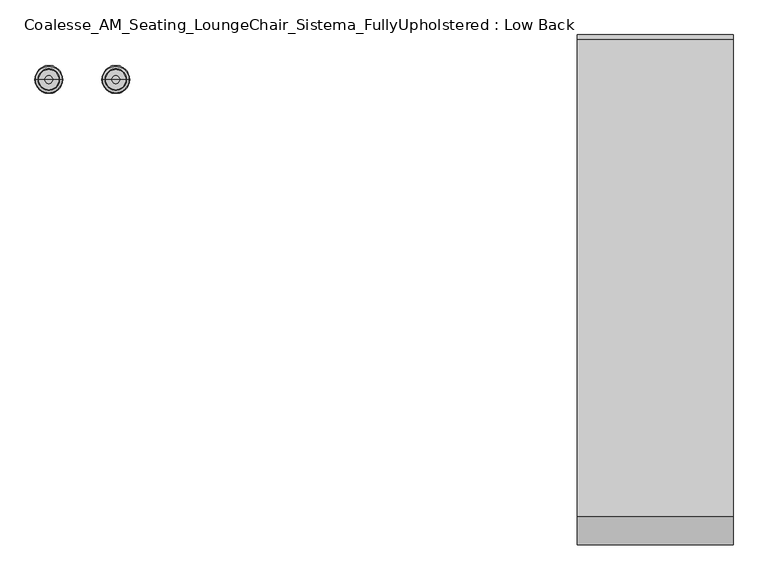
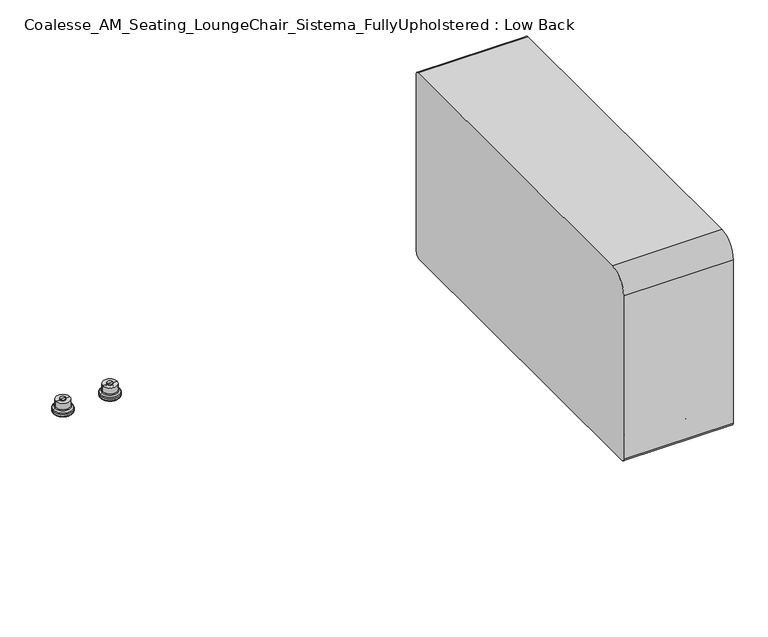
"""IFC4 building model written with IfcOpenShell, lengths in millimetres: furniture geometry, Coalesse_AM_Seating_LoungeChair_Sistema_FullyUpholstered : Low Back."""

from ifc_helpers import new_model, si_unit, point, frame, frame_2d, origin, place, context, project, spatial, polyline, circle_curve, ellipse_curve, trimmed, segment, composite_curve, outline, extrude, source, transform, mapped, element, save
from ifc_brep_helpers import plane_surface, cylinder_surface, revolved_surface, advanced_brep


def coalesse_am_seating_loungechair_sistema_fullyupholstered_low_4fc6f266(model_context):
    return source(origin(), model_context, "Body", "SolidModel", [
        advanced_brep(
        [(559.2171975, 377.2587221, 32.0111214), (559.2171975, 377.2587221, 16.5557542), (595.490807, 377.2587221, 16.5557542), (595.490807, 377.2587221, 32.0111214), (557.923517, 377.2587221, 14.0167632), (596.7844876, 377.2587221, 14.0167632), (553.5515307, 377.2587221, 10.8824382), (601.1564738, 377.2587221, 10.8824382), (552.3653144, 377.2587221, 8.4680454), (602.3426902, 377.2587221, 8.4680454), (552.3653144, 377.2587221, 3.1081764), (602.3426902, 377.2587221, 3.1081764), (555.9616889, 377.2587221, 0.0), (598.7463156, 377.2587221, 0.0), (577.3540023, 377.2587221, 0.0), (577.3540023, 377.2587221, 34.4679682), (570.2392233, 377.2587221, 34.4679682), (584.4687813, 377.2587221, 34.4679682), (570.2392233, 377.2587221, 32.0111214), (584.4687813, 377.2587221, 32.0111214)],
        [
            (0, 1),
            (1, 2, circle_curve(frame((577.3540023, 377.2587221, 16.5557542), z_axis=(0.0, 0.0, 1.0), x_axis=(1.0, 0.0, 0.0)), 18.1368048)),
            (2, 3),
            (3, 0, circle_curve(frame((577.3540023, 377.2587221, 32.0111214), z_axis=(0.0, 0.0, -1.0), x_axis=(1.0, 0.0, 0.0)), 18.1368048)),
            (2, 1, circle_curve(frame((577.3540023, 377.2587221, 16.5557542), z_axis=(0.0, 0.0, 1.0), x_axis=(1.0, 0.0, 0.0)), 18.1368048)),
            (0, 3, circle_curve(frame((577.3540023, 377.2587221, 32.0111214), z_axis=(0.0, 0.0, -1.0), x_axis=(1.0, 0.0, 0.0)), 18.1368048)),
            (1, 4),
            (4, 5, circle_curve(frame((577.3540023, 377.2587221, 14.0167632), z_axis=(0.0, 0.0, 1.0), x_axis=(1.0, 0.0, 0.0)), 19.4304853)),
            (5, 2),
            (5, 4, circle_curve(frame((577.3540023, 377.2587221, 14.0167632), z_axis=(0.0, 0.0, 1.0), x_axis=(1.0, 0.0, 0.0)), 19.4304853)),
            (4, 6, circle_curve(frame((599.9054873, 377.2587221, -49.1591113), z_axis=(0.0, -1.0, 0.0), x_axis=(1.0, 0.0, 0.0)), 75.8529957)),
            (6, 7, circle_curve(frame((577.3540023, 377.2587221, 10.8824382), z_axis=(0.0, 0.0, 1.0), x_axis=(1.0, 0.0, 0.0)), 23.8024715)),
            (7, 5, circle_curve(frame((554.8025172, 377.2587221, -49.1591113), z_axis=(0.0, -1.0, 0.0), x_axis=(-1.0, 0.0, 0.0)), 75.8529957)),
            (7, 6, circle_curve(frame((577.3540023, 377.2587221, 10.8824382), z_axis=(0.0, 0.0, 1.0), x_axis=(1.0, 0.0, 0.0)), 23.8024715)),
            (6, 8, circle_curve(frame((555.4155176, 377.2587221, 8.4680454), z_axis=(0.0, -1.0, 0.0), x_axis=(1.0, 0.0, 0.0)), 3.0502032)),
            (8, 9, circle_curve(frame((577.3540023, 377.2587221, 8.4680454), z_axis=(0.0, 0.0, 1.0), x_axis=(1.0, 0.0, 0.0)), 24.9886879)),
            (9, 7, circle_curve(frame((599.2924869, 377.2587221, 8.4680454), z_axis=(0.0, -1.0, 0.0), x_axis=(-1.0, 0.0, 0.0)), 3.0502032)),
            (9, 8, circle_curve(frame((577.3540023, 377.2587221, 8.4680454), z_axis=(0.0, 0.0, 1.0), x_axis=(1.0, 0.0, 0.0)), 24.9886879)),
            (8, 10),
            (10, 11, circle_curve(frame((577.3540023, 377.2587221, 3.1081764), z_axis=(0.0, 0.0, 1.0), x_axis=(1.0, 0.0, 0.0)), 24.9886879)),
            (11, 9),
            (11, 10, circle_curve(frame((577.3540023, 377.2587221, 3.1081764), z_axis=(0.0, 0.0, 1.0), x_axis=(1.0, 0.0, 0.0)), 24.9886879)),
            (10, 12, circle_curve(frame((555.9616889, 377.2587221, 3.634715), z_axis=(0.0, -1.0, 0.0), x_axis=(1.0, 0.0, 0.0)), 3.634715)),
            (12, 13, circle_curve(frame((577.3540023, 377.2587221, 0.0), z_axis=(0.0, 0.0, 1.0), x_axis=(1.0, 0.0, 0.0)), 21.3923133)),
            (13, 11, circle_curve(frame((598.7463156, 377.2587221, 3.634715), z_axis=(0.0, -1.0, 0.0), x_axis=(-1.0, 0.0, 0.0)), 3.634715)),
            (13, 12, circle_curve(frame((577.3540023, 377.2587221, 0.0), z_axis=(0.0, 0.0, 1.0), x_axis=(1.0, 0.0, 0.0)), 21.3923133)),
            (12, 14),
            (14, 13),
            (15, 16),
            (16, 17, circle_curve(frame((577.3540023, 377.2587221, 34.4679682), z_axis=(0.0, 0.0, 1.0), x_axis=(1.0, 0.0, 0.0)), 7.114779)),
            (17, 15),
            (17, 16, circle_curve(frame((577.3540023, 377.2587221, 34.4679682), z_axis=(0.0, 0.0, 1.0), x_axis=(1.0, 0.0, 0.0)), 7.114779)),
            (16, 18),
            (18, 19, circle_curve(frame((577.3540023, 377.2587221, 32.0111214), z_axis=(0.0, 0.0, 1.0), x_axis=(1.0, 0.0, 0.0)), 7.114779)),
            (19, 17),
            (19, 18, circle_curve(frame((577.3540023, 377.2587221, 32.0111214), z_axis=(0.0, 0.0, 1.0), x_axis=(1.0, 0.0, 0.0)), 7.114779)),
            (18, 0),
            (3, 19),
        ],
        [
            cylinder_surface(frame((577.3540023, 377.2587221, 22.0491407), z_axis=(0.0, 0.0, 1.0), x_axis=(1.0, 0.0, 0.0)), 18.1368048),
            revolved_surface(polyline([(596.7844876, 377.2587221, 14.0167632), (595.490807, 377.2587221, 16.5557542)]), (577.3540023, 377.2587221, 22.0491407), (0.0, 0.0, 1.0)),
            revolved_surface(trimmed(ellipse_curve(frame((554.8025172, 377.2587221, -49.1591113), z_axis=(0.0, -1.0, 0.0), x_axis=(-1.0, 0.0, 0.0)), 75.8529957, 75.8529957), [point((601.1564738, 377.2587221, 10.8824382))], [point((596.7844876, 377.2587221, 14.0167632))], True, "CARTESIAN"), (577.3540023, 377.2587221, 22.0491407), (0.0, 0.0, 1.0)),
            revolved_surface(trimmed(ellipse_curve(frame((599.2924869, 377.2587221, 8.4680454), z_axis=(0.0, -1.0, 0.0), x_axis=(-1.0, 0.0, 0.0)), 3.0502032, 3.0502032), [point((602.3426902, 377.2587221, 8.4680454))], [point((601.1564738, 377.2587221, 10.8824382))], True, "CARTESIAN"), (577.3540023, 377.2587221, 22.0491407), (0.0, 0.0, 1.0)),
            cylinder_surface(frame((577.3540023, 377.2587221, 22.0491407), z_axis=(0.0, 0.0, 1.0), x_axis=(1.0, 0.0, 0.0)), 24.9886879),
            revolved_surface(trimmed(ellipse_curve(frame((598.7463156, 377.2587221, 3.634715), z_axis=(0.0, -1.0, 0.0), x_axis=(-1.0, 0.0, 0.0)), 3.634715, 3.634715), [point((598.7463156, 377.2587221, 0.0))], [point((602.3426902, 377.2587221, 3.1081764))], True, "CARTESIAN"), (577.3540023, 377.2587221, 22.0491407), (0.0, 0.0, 1.0)),
            plane_surface(frame((577.3540023, 377.2587221, 0.0), z_axis=(0.0, 0.0, -1.0), x_axis=(1.0, 0.0, 0.0))),
            plane_surface(frame((577.3540023, 377.2587221, 34.4679682), z_axis=(0.0, 0.0, 1.0), x_axis=(1.0, 0.0, 0.0))),
            cylinder_surface(frame((577.3540023, 377.2587221, 22.0491407), z_axis=(0.0, 0.0, 1.0), x_axis=(1.0, 0.0, 0.0)), 7.114779),
            plane_surface(frame((577.3540023, 377.2587221, 32.0111214), z_axis=(0.0, 0.0, 1.0), x_axis=(1.0, 0.0, 0.0))),
        ],
        [
            (0, [[1, 2, 3, 4]]),
            (0, [[-3, 5, -1, 6]]),
            (1, [[7, 8, 9, -2]]),
            (1, [[-9, 10, -7, -5]]),
            (2, [[11, 12, 13, -8]]),
            (2, [[-13, 14, -11, -10]]),
            (3, [[15, 16, 17, -12]]),
            (3, [[-17, 18, -15, -14]]),
            (4, [[19, 20, 21, -16]]),
            (4, [[-21, 22, -19, -18]]),
            (5, [[23, 24, 25, -20]]),
            (5, [[-25, 26, -23, -22]]),
            (6, [[27, 28, -24]]),
            (6, [[-28, -27, -26]]),
            (7, [[29, 30, 31]]),
            (7, [[-31, 32, -29]]),
            (8, [[33, 34, 35, -30]]),
            (8, [[-35, 36, -33, -32]]),
            (9, [[37, -4, 38, -34]]),
            (9, [[-38, -6, -37, -36]]),
        ],
    ),
        advanced_brep(
        [(438.5671975, 377.2587221, 32.0111214), (438.5671975, 377.2587221, 16.5557542), (474.840807, 377.2587221, 16.5557542), (474.840807, 377.2587221, 32.0111214), (437.273517, 377.2587221, 14.0167632), (476.1344876, 377.2587221, 14.0167632), (432.9015307, 377.2587221, 10.8824382), (480.5064738, 377.2587221, 10.8824382), (431.7153144, 377.2587221, 8.4680454), (481.6926902, 377.2587221, 8.4680454), (431.7153144, 377.2587221, 3.1081764), (481.6926902, 377.2587221, 3.1081764), (435.3116889, 377.2587221, 0.0), (478.0963156, 377.2587221, 0.0), (456.7040023, 377.2587221, 0.0), (456.7040023, 377.2587221, 34.4679682), (449.5892233, 377.2587221, 34.4679682), (463.8187813, 377.2587221, 34.4679682), (449.5892233, 377.2587221, 32.0111214), (463.8187813, 377.2587221, 32.0111214)],
        [
            (0, 1),
            (1, 2, circle_curve(frame((456.7040023, 377.2587221, 16.5557542), z_axis=(0.0, 0.0, 1.0), x_axis=(1.0, 0.0, 0.0)), 18.1368048)),
            (2, 3),
            (3, 0, circle_curve(frame((456.7040023, 377.2587221, 32.0111214), z_axis=(0.0, 0.0, -1.0), x_axis=(1.0, 0.0, 0.0)), 18.1368048)),
            (2, 1, circle_curve(frame((456.7040023, 377.2587221, 16.5557542), z_axis=(0.0, 0.0, 1.0), x_axis=(1.0, 0.0, 0.0)), 18.1368048)),
            (0, 3, circle_curve(frame((456.7040023, 377.2587221, 32.0111214), z_axis=(0.0, 0.0, -1.0), x_axis=(1.0, 0.0, 0.0)), 18.1368048)),
            (1, 4),
            (4, 5, circle_curve(frame((456.7040023, 377.2587221, 14.0167632), z_axis=(0.0, 0.0, 1.0), x_axis=(1.0, 0.0, 0.0)), 19.4304853)),
            (5, 2),
            (5, 4, circle_curve(frame((456.7040023, 377.2587221, 14.0167632), z_axis=(0.0, 0.0, 1.0), x_axis=(1.0, 0.0, 0.0)), 19.4304853)),
            (4, 6, circle_curve(frame((479.2554873, 377.2587221, -49.1591113), z_axis=(0.0, -1.0, 0.0), x_axis=(1.0, 0.0, 0.0)), 75.8529957)),
            (6, 7, circle_curve(frame((456.7040023, 377.2587221, 10.8824382), z_axis=(0.0, 0.0, 1.0), x_axis=(1.0, 0.0, 0.0)), 23.8024715)),
            (7, 5, circle_curve(frame((434.1525172, 377.2587221, -49.1591113), z_axis=(0.0, -1.0, 0.0), x_axis=(-1.0, 0.0, 0.0)), 75.8529957)),
            (7, 6, circle_curve(frame((456.7040023, 377.2587221, 10.8824382), z_axis=(0.0, 0.0, 1.0), x_axis=(1.0, 0.0, 0.0)), 23.8024715)),
            (6, 8, circle_curve(frame((434.7655176, 377.2587221, 8.4680454), z_axis=(0.0, -1.0, 0.0), x_axis=(1.0, 0.0, 0.0)), 3.0502032)),
            (8, 9, circle_curve(frame((456.7040023, 377.2587221, 8.4680454), z_axis=(0.0, 0.0, 1.0), x_axis=(1.0, 0.0, 0.0)), 24.9886879)),
            (9, 7, circle_curve(frame((478.6424869, 377.2587221, 8.4680454), z_axis=(0.0, -1.0, 0.0), x_axis=(-1.0, 0.0, 0.0)), 3.0502032)),
            (9, 8, circle_curve(frame((456.7040023, 377.2587221, 8.4680454), z_axis=(0.0, 0.0, 1.0), x_axis=(1.0, 0.0, 0.0)), 24.9886879)),
            (8, 10),
            (10, 11, circle_curve(frame((456.7040023, 377.2587221, 3.1081764), z_axis=(0.0, 0.0, 1.0), x_axis=(1.0, 0.0, 0.0)), 24.9886879)),
            (11, 9),
            (11, 10, circle_curve(frame((456.7040023, 377.2587221, 3.1081764), z_axis=(0.0, 0.0, 1.0), x_axis=(1.0, 0.0, 0.0)), 24.9886879)),
            (10, 12, circle_curve(frame((435.3116889, 377.2587221, 3.634715), z_axis=(0.0, -1.0, 0.0), x_axis=(1.0, 0.0, 0.0)), 3.634715)),
            (12, 13, circle_curve(frame((456.7040023, 377.2587221, 0.0), z_axis=(0.0, 0.0, 1.0), x_axis=(1.0, 0.0, 0.0)), 21.3923133)),
            (13, 11, circle_curve(frame((478.0963156, 377.2587221, 3.634715), z_axis=(0.0, -1.0, 0.0), x_axis=(-1.0, 0.0, 0.0)), 3.634715)),
            (13, 12, circle_curve(frame((456.7040023, 377.2587221, 0.0), z_axis=(0.0, 0.0, 1.0), x_axis=(1.0, 0.0, 0.0)), 21.3923133)),
            (12, 14),
            (14, 13),
            (15, 16),
            (16, 17, circle_curve(frame((456.7040023, 377.2587221, 34.4679682), z_axis=(0.0, 0.0, 1.0), x_axis=(1.0, 0.0, 0.0)), 7.114779)),
            (17, 15),
            (17, 16, circle_curve(frame((456.7040023, 377.2587221, 34.4679682), z_axis=(0.0, 0.0, 1.0), x_axis=(1.0, 0.0, 0.0)), 7.114779)),
            (16, 18),
            (18, 19, circle_curve(frame((456.7040023, 377.2587221, 32.0111214), z_axis=(0.0, 0.0, 1.0), x_axis=(1.0, 0.0, 0.0)), 7.114779)),
            (19, 17),
            (19, 18, circle_curve(frame((456.7040023, 377.2587221, 32.0111214), z_axis=(0.0, 0.0, 1.0), x_axis=(1.0, 0.0, 0.0)), 7.114779)),
            (18, 0),
            (3, 19),
        ],
        [
            cylinder_surface(frame((456.7040023, 377.2587221, 22.0491407), z_axis=(0.0, 0.0, 1.0), x_axis=(1.0, 0.0, 0.0)), 18.1368048),
            revolved_surface(polyline([(476.1344876, 377.2587221, 14.0167632), (474.840807, 377.2587221, 16.5557542)]), (456.7040023, 377.2587221, 22.0491407), (0.0, 0.0, 1.0)),
            revolved_surface(trimmed(ellipse_curve(frame((434.1525172, 377.2587221, -49.1591113), z_axis=(0.0, -1.0, 0.0), x_axis=(-1.0, 0.0, 0.0)), 75.8529957, 75.8529957), [point((480.5064738, 377.2587221, 10.8824382))], [point((476.1344876, 377.2587221, 14.0167632))], True, "CARTESIAN"), (456.7040023, 377.2587221, 22.0491407), (0.0, 0.0, 1.0)),
            revolved_surface(trimmed(ellipse_curve(frame((478.6424869, 377.2587221, 8.4680454), z_axis=(0.0, -1.0, 0.0), x_axis=(-1.0, 0.0, 0.0)), 3.0502032, 3.0502032), [point((481.6926902, 377.2587221, 8.4680454))], [point((480.5064738, 377.2587221, 10.8824382))], True, "CARTESIAN"), (456.7040023, 377.2587221, 22.0491407), (0.0, 0.0, 1.0)),
            cylinder_surface(frame((456.7040023, 377.2587221, 22.0491407), z_axis=(0.0, 0.0, 1.0), x_axis=(1.0, 0.0, 0.0)), 24.9886879),
            revolved_surface(trimmed(ellipse_curve(frame((478.0963156, 377.2587221, 3.634715), z_axis=(0.0, -1.0, 0.0), x_axis=(-1.0, 0.0, 0.0)), 3.634715, 3.634715), [point((478.0963156, 377.2587221, 0.0))], [point((481.6926902, 377.2587221, 3.1081764))], True, "CARTESIAN"), (456.7040023, 377.2587221, 22.0491407), (0.0, 0.0, 1.0)),
            plane_surface(frame((456.7040023, 377.2587221, 0.0), z_axis=(0.0, 0.0, -1.0), x_axis=(1.0, 0.0, 0.0))),
            plane_surface(frame((456.7040023, 377.2587221, 34.4679682), z_axis=(0.0, 0.0, 1.0), x_axis=(1.0, 0.0, 0.0))),
            cylinder_surface(frame((456.7040023, 377.2587221, 22.0491407), z_axis=(0.0, 0.0, 1.0), x_axis=(1.0, 0.0, 0.0)), 7.114779),
            plane_surface(frame((456.7040023, 377.2587221, 32.0111214), z_axis=(0.0, 0.0, 1.0), x_axis=(1.0, 0.0, 0.0))),
        ],
        [
            (0, [[1, 2, 3, 4]]),
            (0, [[-3, 5, -1, 6]]),
            (1, [[7, 8, 9, -2]]),
            (1, [[-9, 10, -7, -5]]),
            (2, [[11, 12, 13, -8]]),
            (2, [[-13, 14, -11, -10]]),
            (3, [[15, 16, 17, -12]]),
            (3, [[-17, 18, -15, -14]]),
            (4, [[19, 20, 21, -16]]),
            (4, [[-21, 22, -19, -18]]),
            (5, [[23, 24, 25, -20]]),
            (5, [[-25, 26, -23, -22]]),
            (6, [[27, 28, -24]]),
            (6, [[-28, -27, -26]]),
            (7, [[29, 30, 31]]),
            (7, [[-31, 32, -29]]),
            (8, [[33, 34, 35, -30]]),
            (8, [[-35, 36, -33, -32]]),
            (9, [[37, -4, 38, -34]]),
            (9, [[-38, -6, -37, -36]]),
        ],
    ),
        advanced_brep(
        [(559.2171975, -359.8402281, 16.5557542), (559.2171975, -359.8402281, 32.0111214), (595.490807, -359.8402281, 32.0111214), (595.490807, -359.8402281, 16.5557542), (557.923517, -359.8402281, 14.0167632), (596.7844876, -359.8402281, 14.0167632), (553.5515307, -359.8402281, 10.8824382), (601.1564738, -359.8402281, 10.8824382), (552.3653144, -359.8402281, 8.4680454), (602.3426902, -359.8402281, 8.4680454), (552.3653144, -359.8402281, 3.1081764), (602.3426902, -359.8402281, 3.1081764), (555.9616889, -359.8402281, 0.0), (598.7463156, -359.8402281, 0.0), (577.3540023, -359.8402281, 0.0), (570.2392233, -359.8402281, 34.4679682), (577.3540023, -359.8402281, 34.4679682), (584.4687813, -359.8402281, 34.4679682), (570.2392233, -359.8402281, 32.0111214), (584.4687813, -359.8402281, 32.0111214)],
        [
            (0, 1),
            (1, 2, circle_curve(frame((577.3540023, -359.8402281, 32.0111214), z_axis=(0.0, 0.0, -1.0), x_axis=(1.0, 0.0, 0.0)), 18.1368048)),
            (2, 3),
            (3, 0, circle_curve(frame((577.3540023, -359.8402281, 16.5557542), z_axis=(0.0, 0.0, 1.0), x_axis=(1.0, 0.0, 0.0)), 18.1368048)),
            (2, 1, circle_curve(frame((577.3540023, -359.8402281, 32.0111214), z_axis=(0.0, 0.0, -1.0), x_axis=(1.0, 0.0, 0.0)), 18.1368048)),
            (0, 3, circle_curve(frame((577.3540023, -359.8402281, 16.5557542), z_axis=(0.0, 0.0, 1.0), x_axis=(1.0, 0.0, 0.0)), 18.1368048)),
            (4, 0),
            (3, 5),
            (5, 4, circle_curve(frame((577.3540023, -359.8402281, 14.0167632), z_axis=(0.0, 0.0, 1.0), x_axis=(1.0, 0.0, 0.0)), 19.4304853)),
            (4, 5, circle_curve(frame((577.3540023, -359.8402281, 14.0167632), z_axis=(0.0, 0.0, 1.0), x_axis=(1.0, 0.0, 0.0)), 19.4304853)),
            (6, 4, circle_curve(frame((599.9054873, -359.8402281, -49.1591113), z_axis=(0.0, 1.0, 0.0), x_axis=(1.0, 0.0, 0.0)), 75.8529957)),
            (5, 7, circle_curve(frame((554.8025172, -359.8402281, -49.1591113), z_axis=(0.0, 1.0, 0.0), x_axis=(-1.0, 0.0, 0.0)), 75.8529957)),
            (7, 6, circle_curve(frame((577.3540023, -359.8402281, 10.8824382), z_axis=(0.0, 0.0, 1.0), x_axis=(1.0, 0.0, 0.0)), 23.8024715)),
            (6, 7, circle_curve(frame((577.3540023, -359.8402281, 10.8824382), z_axis=(0.0, 0.0, 1.0), x_axis=(1.0, 0.0, 0.0)), 23.8024715)),
            (8, 6, circle_curve(frame((555.4155176, -359.8402281, 8.4680454), z_axis=(0.0, 1.0, 0.0), x_axis=(1.0, 0.0, 0.0)), 3.0502032)),
            (7, 9, circle_curve(frame((599.2924869, -359.8402281, 8.4680454), z_axis=(0.0, 1.0, 0.0), x_axis=(-1.0, 0.0, 0.0)), 3.0502032)),
            (9, 8, circle_curve(frame((577.3540023, -359.8402281, 8.4680454), z_axis=(0.0, 0.0, 1.0), x_axis=(1.0, 0.0, 0.0)), 24.9886879)),
            (8, 9, circle_curve(frame((577.3540023, -359.8402281, 8.4680454), z_axis=(0.0, 0.0, 1.0), x_axis=(1.0, 0.0, 0.0)), 24.9886879)),
            (10, 8),
            (9, 11),
            (11, 10, circle_curve(frame((577.3540023, -359.8402281, 3.1081764), z_axis=(0.0, 0.0, 1.0), x_axis=(1.0, 0.0, 0.0)), 24.9886879)),
            (10, 11, circle_curve(frame((577.3540023, -359.8402281, 3.1081764), z_axis=(0.0, 0.0, 1.0), x_axis=(1.0, 0.0, 0.0)), 24.9886879)),
            (12, 10, circle_curve(frame((555.9616889, -359.8402281, 3.634715), z_axis=(0.0, 1.0, 0.0), x_axis=(1.0, 0.0, 0.0)), 3.634715)),
            (11, 13, circle_curve(frame((598.7463156, -359.8402281, 3.634715), z_axis=(0.0, 1.0, 0.0), x_axis=(-1.0, 0.0, 0.0)), 3.634715)),
            (13, 12, circle_curve(frame((577.3540023, -359.8402281, 0.0), z_axis=(0.0, 0.0, 1.0), x_axis=(1.0, 0.0, 0.0)), 21.3923133)),
            (12, 13, circle_curve(frame((577.3540023, -359.8402281, 0.0), z_axis=(0.0, 0.0, 1.0), x_axis=(1.0, 0.0, 0.0)), 21.3923133)),
            (14, 12),
            (13, 14),
            (15, 16),
            (16, 17),
            (17, 15, circle_curve(frame((577.3540023, -359.8402281, 34.4679682), z_axis=(0.0, 0.0, 1.0), x_axis=(1.0, 0.0, 0.0)), 7.114779)),
            (15, 17, circle_curve(frame((577.3540023, -359.8402281, 34.4679682), z_axis=(0.0, 0.0, 1.0), x_axis=(1.0, 0.0, 0.0)), 7.114779)),
            (18, 15),
            (17, 19),
            (19, 18, circle_curve(frame((577.3540023, -359.8402281, 32.0111214), z_axis=(0.0, 0.0, 1.0), x_axis=(1.0, 0.0, 0.0)), 7.114779)),
            (18, 19, circle_curve(frame((577.3540023, -359.8402281, 32.0111214), z_axis=(0.0, 0.0, 1.0), x_axis=(1.0, 0.0, 0.0)), 7.114779)),
            (1, 18),
            (19, 2),
        ],
        [
            cylinder_surface(frame((577.3540023, -359.8402281, 22.0491407), z_axis=(0.0, 0.0, -1.0), x_axis=(1.0, 0.0, 0.0)), 18.1368048),
            revolved_surface(polyline([(595.490807, -359.8402281, 16.5557542), (596.7844876, -359.8402281, 14.0167632)]), (577.3540023, -359.8402281, 22.0491407), (0.0, 0.0, -1.0)),
            revolved_surface(trimmed(ellipse_curve(frame((554.8025172, -359.8402281, -49.1591113), z_axis=(0.0, 1.0, 0.0), x_axis=(-1.0, 0.0, 0.0)), 75.8529957, 75.8529957), [point((596.7844876, -359.8402281, 14.0167632))], [point((601.1564738, -359.8402281, 10.8824382))], True, "CARTESIAN"), (577.3540023, -359.8402281, 22.0491407), (0.0, 0.0, -1.0)),
            revolved_surface(trimmed(ellipse_curve(frame((599.2924869, -359.8402281, 8.4680454), z_axis=(0.0, 1.0, 0.0), x_axis=(-1.0, 0.0, 0.0)), 3.0502032, 3.0502032), [point((601.1564738, -359.8402281, 10.8824382))], [point((602.3426902, -359.8402281, 8.4680454))], True, "CARTESIAN"), (577.3540023, -359.8402281, 22.0491407), (0.0, 0.0, -1.0)),
            cylinder_surface(frame((577.3540023, -359.8402281, 22.0491407), z_axis=(0.0, 0.0, -1.0), x_axis=(1.0, 0.0, 0.0)), 24.9886879),
            revolved_surface(trimmed(ellipse_curve(frame((598.7463156, -359.8402281, 3.634715), z_axis=(0.0, 1.0, 0.0), x_axis=(-1.0, 0.0, 0.0)), 3.634715, 3.634715), [point((602.3426902, -359.8402281, 3.1081764))], [point((598.7463156, -359.8402281, 0.0))], True, "CARTESIAN"), (577.3540023, -359.8402281, 22.0491407), (0.0, 0.0, -1.0)),
            plane_surface(frame((577.3540023, -359.8402281, 0.0), z_axis=(0.0, 0.0, -1.0), x_axis=(1.0, 0.0, 0.0))),
            plane_surface(frame((577.3540023, -359.8402281, 34.4679682), z_axis=(0.0, 0.0, 1.0), x_axis=(1.0, 0.0, 0.0))),
            cylinder_surface(frame((577.3540023, -359.8402281, 22.0491407), z_axis=(0.0, 0.0, -1.0), x_axis=(1.0, 0.0, 0.0)), 7.114779),
            plane_surface(frame((577.3540023, -359.8402281, 32.0111214), z_axis=(0.0, 0.0, 1.0), x_axis=(1.0, 0.0, 0.0))),
        ],
        [
            (0, [[1, 2, 3, 4]]),
            (0, [[-3, 5, -1, 6]]),
            (1, [[7, -4, 8, 9]]),
            (1, [[-8, -6, -7, 10]]),
            (2, [[11, -9, 12, 13]]),
            (2, [[-12, -10, -11, 14]]),
            (3, [[15, -13, 16, 17]]),
            (3, [[-16, -14, -15, 18]]),
            (4, [[19, -17, 20, 21]]),
            (4, [[-20, -18, -19, 22]]),
            (5, [[23, -21, 24, 25]]),
            (5, [[-24, -22, -23, 26]]),
            (6, [[27, -25, 28]]),
            (6, [[-28, -26, -27]]),
            (7, [[29, 30, 31]]),
            (7, [[-30, -29, 32]]),
            (8, [[33, -31, 34, 35]]),
            (8, [[-34, -32, -33, 36]]),
            (9, [[37, -35, 38, -2]]),
            (9, [[-38, -36, -37, -5]]),
        ],
    ),
        advanced_brep(
        [(438.5671975, -359.8402281, 16.5557542), (438.5671975, -359.8402281, 32.0111214), (474.840807, -359.8402281, 32.0111214), (474.840807, -359.8402281, 16.5557542), (437.273517, -359.8402281, 14.0167632), (476.1344876, -359.8402281, 14.0167632), (432.9015307, -359.8402281, 10.8824382), (480.5064738, -359.8402281, 10.8824382), (431.7153144, -359.8402281, 8.4680454), (481.6926902, -359.8402281, 8.4680454), (431.7153144, -359.8402281, 3.1081764), (481.6926902, -359.8402281, 3.1081764), (435.3116889, -359.8402281, 0.0), (478.0963156, -359.8402281, 0.0), (456.7040023, -359.8402281, 0.0), (449.5892233, -359.8402281, 34.4679682), (456.7040023, -359.8402281, 34.4679682), (463.8187813, -359.8402281, 34.4679682), (449.5892233, -359.8402281, 32.0111214), (463.8187813, -359.8402281, 32.0111214)],
        [
            (0, 1),
            (1, 2, circle_curve(frame((456.7040023, -359.8402281, 32.0111214), z_axis=(0.0, 0.0, -1.0), x_axis=(1.0, 0.0, 0.0)), 18.1368048)),
            (2, 3),
            (3, 0, circle_curve(frame((456.7040023, -359.8402281, 16.5557542), z_axis=(0.0, 0.0, 1.0), x_axis=(1.0, 0.0, 0.0)), 18.1368048)),
            (2, 1, circle_curve(frame((456.7040023, -359.8402281, 32.0111214), z_axis=(0.0, 0.0, -1.0), x_axis=(1.0, 0.0, 0.0)), 18.1368048)),
            (0, 3, circle_curve(frame((456.7040023, -359.8402281, 16.5557542), z_axis=(0.0, 0.0, 1.0), x_axis=(1.0, 0.0, 0.0)), 18.1368048)),
            (4, 0),
            (3, 5),
            (5, 4, circle_curve(frame((456.7040023, -359.8402281, 14.0167632), z_axis=(0.0, 0.0, 1.0), x_axis=(1.0, 0.0, 0.0)), 19.4304853)),
            (4, 5, circle_curve(frame((456.7040023, -359.8402281, 14.0167632), z_axis=(0.0, 0.0, 1.0), x_axis=(1.0, 0.0, 0.0)), 19.4304853)),
            (6, 4, circle_curve(frame((479.2554873, -359.8402281, -49.1591113), z_axis=(0.0, 1.0, 0.0), x_axis=(1.0, 0.0, 0.0)), 75.8529957)),
            (5, 7, circle_curve(frame((434.1525172, -359.8402281, -49.1591113), z_axis=(0.0, 1.0, 0.0), x_axis=(-1.0, 0.0, 0.0)), 75.8529957)),
            (7, 6, circle_curve(frame((456.7040023, -359.8402281, 10.8824382), z_axis=(0.0, 0.0, 1.0), x_axis=(1.0, 0.0, 0.0)), 23.8024715)),
            (6, 7, circle_curve(frame((456.7040023, -359.8402281, 10.8824382), z_axis=(0.0, 0.0, 1.0), x_axis=(1.0, 0.0, 0.0)), 23.8024715)),
            (8, 6, circle_curve(frame((434.7655176, -359.8402281, 8.4680454), z_axis=(0.0, 1.0, 0.0), x_axis=(1.0, 0.0, 0.0)), 3.0502032)),
            (7, 9, circle_curve(frame((478.6424869, -359.8402281, 8.4680454), z_axis=(0.0, 1.0, 0.0), x_axis=(-1.0, 0.0, 0.0)), 3.0502032)),
            (9, 8, circle_curve(frame((456.7040023, -359.8402281, 8.4680454), z_axis=(0.0, 0.0, 1.0), x_axis=(1.0, 0.0, 0.0)), 24.9886879)),
            (8, 9, circle_curve(frame((456.7040023, -359.8402281, 8.4680454), z_axis=(0.0, 0.0, 1.0), x_axis=(1.0, 0.0, 0.0)), 24.9886879)),
            (10, 8),
            (9, 11),
            (11, 10, circle_curve(frame((456.7040023, -359.8402281, 3.1081764), z_axis=(0.0, 0.0, 1.0), x_axis=(1.0, 0.0, 0.0)), 24.9886879)),
            (10, 11, circle_curve(frame((456.7040023, -359.8402281, 3.1081764), z_axis=(0.0, 0.0, 1.0), x_axis=(1.0, 0.0, 0.0)), 24.9886879)),
            (12, 10, circle_curve(frame((435.3116889, -359.8402281, 3.634715), z_axis=(0.0, 1.0, 0.0), x_axis=(1.0, 0.0, 0.0)), 3.634715)),
            (11, 13, circle_curve(frame((478.0963156, -359.8402281, 3.634715), z_axis=(0.0, 1.0, 0.0), x_axis=(-1.0, 0.0, 0.0)), 3.634715)),
            (13, 12, circle_curve(frame((456.7040023, -359.8402281, 0.0), z_axis=(0.0, 0.0, 1.0), x_axis=(1.0, 0.0, 0.0)), 21.3923133)),
            (12, 13, circle_curve(frame((456.7040023, -359.8402281, 0.0), z_axis=(0.0, 0.0, 1.0), x_axis=(1.0, 0.0, 0.0)), 21.3923133)),
            (14, 12),
            (13, 14),
            (15, 16),
            (16, 17),
            (17, 15, circle_curve(frame((456.7040023, -359.8402281, 34.4679682), z_axis=(0.0, 0.0, 1.0), x_axis=(1.0, 0.0, 0.0)), 7.114779)),
            (15, 17, circle_curve(frame((456.7040023, -359.8402281, 34.4679682), z_axis=(0.0, 0.0, 1.0), x_axis=(1.0, 0.0, 0.0)), 7.114779)),
            (18, 15),
            (17, 19),
            (19, 18, circle_curve(frame((456.7040023, -359.8402281, 32.0111214), z_axis=(0.0, 0.0, 1.0), x_axis=(1.0, 0.0, 0.0)), 7.114779)),
            (18, 19, circle_curve(frame((456.7040023, -359.8402281, 32.0111214), z_axis=(0.0, 0.0, 1.0), x_axis=(1.0, 0.0, 0.0)), 7.114779)),
            (1, 18),
            (19, 2),
        ],
        [
            cylinder_surface(frame((456.7040023, -359.8402281, 22.0491407), z_axis=(0.0, 0.0, -1.0), x_axis=(1.0, 0.0, 0.0)), 18.1368048),
            revolved_surface(polyline([(474.840807, -359.8402281, 16.5557542), (476.1344876, -359.8402281, 14.0167632)]), (456.7040023, -359.8402281, 22.0491407), (0.0, 0.0, -1.0)),
            revolved_surface(trimmed(ellipse_curve(frame((434.1525172, -359.8402281, -49.1591113), z_axis=(0.0, 1.0, 0.0), x_axis=(-1.0, 0.0, 0.0)), 75.8529957, 75.8529957), [point((476.1344876, -359.8402281, 14.0167632))], [point((480.5064738, -359.8402281, 10.8824382))], True, "CARTESIAN"), (456.7040023, -359.8402281, 22.0491407), (0.0, 0.0, -1.0)),
            revolved_surface(trimmed(ellipse_curve(frame((478.6424869, -359.8402281, 8.4680454), z_axis=(0.0, 1.0, 0.0), x_axis=(-1.0, 0.0, 0.0)), 3.0502032, 3.0502032), [point((480.5064738, -359.8402281, 10.8824382))], [point((481.6926902, -359.8402281, 8.4680454))], True, "CARTESIAN"), (456.7040023, -359.8402281, 22.0491407), (0.0, 0.0, -1.0)),
            cylinder_surface(frame((456.7040023, -359.8402281, 22.0491407), z_axis=(0.0, 0.0, -1.0), x_axis=(1.0, 0.0, 0.0)), 24.9886879),
            revolved_surface(trimmed(ellipse_curve(frame((478.0963156, -359.8402281, 3.634715), z_axis=(0.0, 1.0, 0.0), x_axis=(-1.0, 0.0, 0.0)), 3.634715, 3.634715), [point((481.6926902, -359.8402281, 3.1081764))], [point((478.0963156, -359.8402281, 0.0))], True, "CARTESIAN"), (456.7040023, -359.8402281, 22.0491407), (0.0, 0.0, -1.0)),
            plane_surface(frame((456.7040023, -359.8402281, 0.0), z_axis=(0.0, 0.0, -1.0), x_axis=(1.0, 0.0, 0.0))),
            plane_surface(frame((456.7040023, -359.8402281, 34.4679682), z_axis=(0.0, 0.0, 1.0), x_axis=(1.0, 0.0, 0.0))),
            cylinder_surface(frame((456.7040023, -359.8402281, 22.0491407), z_axis=(0.0, 0.0, -1.0), x_axis=(1.0, 0.0, 0.0)), 7.114779),
            plane_surface(frame((456.7040023, -359.8402281, 32.0111214), z_axis=(0.0, 0.0, 1.0), x_axis=(1.0, 0.0, 0.0))),
        ],
        [
            (0, [[1, 2, 3, 4]]),
            (0, [[-3, 5, -1, 6]]),
            (1, [[7, -4, 8, 9]]),
            (1, [[-8, -6, -7, 10]]),
            (2, [[11, -9, 12, 13]]),
            (2, [[-12, -10, -11, 14]]),
            (3, [[15, -13, 16, 17]]),
            (3, [[-16, -14, -15, 18]]),
            (4, [[19, -17, 20, 21]]),
            (4, [[-20, -18, -19, 22]]),
            (5, [[23, -21, 24, 25]]),
            (5, [[-24, -22, -23, 26]]),
            (6, [[27, -25, 28]]),
            (6, [[-28, -26, -27]]),
            (7, [[29, 30, 31]]),
            (7, [[-30, -29, 32]]),
            (8, [[33, -31, 34, 35]]),
            (8, [[-34, -32, -33, 36]]),
            (9, [[37, -35, 38, -2]]),
            (9, [[-38, -36, -37, -5]]),
        ],
    ),
        extrude(outline(composite_curve([segment(polyline([(-461.2704381, 44.1353341), (-461.2704381, 487.0244726)]), True, "CONTINUOUS"), segment(trimmed(circle_curve(frame_2d((-410.4704381, 487.0244726)), 50.8), [point((-461.2704381, 487.0244726))], [point((-410.4704381, 537.8244726))], False, "CARTESIAN"), True, "CONTINUOUS"), segment(polyline([(-410.4704381, 537.8244726), (450.1139321, 537.8244726)]), True, "CONTINUOUS"), segment(trimmed(circle_curve(frame_2d((450.1139321, 530.2044726)), 7.62), [point((450.1139321, 537.8244726))], [point((457.7339321, 530.2044726))], False, "CARTESIAN"), True, "CONTINUOUS"), segment(polyline([(457.7339321, 530.2044726), (457.7339321, 49.2153341)]), True, "CONTINUOUS"), segment(trimmed(circle_curve(frame_2d((445.0339321, 49.2153341)), 12.7), [point((457.7339321, 49.2153341))], [point((445.0339321, 36.5153341))], False, "CARTESIAN"), True, "CONTINUOUS"), segment(polyline([(445.0339321, 36.5153341), (-453.6504381, 36.5153341)]), True, "CONTINUOUS"), segment(trimmed(circle_curve(frame_2d((-453.6504381, 44.1353341)), 7.62), [point((-453.6504381, 36.5153341))], [point((-461.2704381, 44.1353341))], False, "CARTESIAN"), True, "CONTINUOUS")], self_intersect=False)), frame((377.4828388, 0.0, 0.0), z_axis=(1.0, 0.0, 0.0), x_axis=(0.0, 1.0, 0.0)), (0.0, 0.0, 1.0), 280.2702957),
        advanced_brep(
        [(-556.537836, 377.2587221, 32.0111214), (-592.8114456, 377.2587221, 32.0111214), (-592.8114456, 377.2587221, 16.5557542), (-556.537836, 377.2587221, 16.5557542), (-594.1051261, 377.2587221, 14.0167632), (-555.2441555, 377.2587221, 14.0167632), (-598.4771123, 377.2587221, 10.8824382), (-550.8721692, 377.2587221, 10.8824382), (-599.6633287, 377.2587221, 8.4680454), (-549.6859529, 377.2587221, 8.4680454), (-599.6633287, 377.2587221, 3.1081764), (-549.6859529, 377.2587221, 3.1081764), (-596.0669541, 377.2587221, 0.0), (-553.2823275, 377.2587221, 0.0), (-574.6746408, 377.2587221, 0.0), (-574.6746408, 377.2587221, 34.4679682), (-581.7894198, 377.2587221, 34.4679682), (-567.5598618, 377.2587221, 34.4679682), (-581.7894198, 377.2587221, 32.0111214), (-567.5598618, 377.2587221, 32.0111214)],
        [
            (0, 1, circle_curve(frame((-574.6746408, 377.2587221, 32.0111214), z_axis=(0.0, 0.0, -1.0), x_axis=(-1.0, 0.0, 0.0)), 18.1368048)),
            (1, 2),
            (2, 3, circle_curve(frame((-574.6746408, 377.2587221, 16.5557542), z_axis=(0.0, 0.0, 1.0), x_axis=(-1.0, 0.0, 0.0)), 18.1368048)),
            (3, 0),
            (1, 0, circle_curve(frame((-574.6746408, 377.2587221, 32.0111214), z_axis=(0.0, 0.0, -1.0), x_axis=(-1.0, 0.0, 0.0)), 18.1368048)),
            (3, 2, circle_curve(frame((-574.6746408, 377.2587221, 16.5557542), z_axis=(0.0, 0.0, 1.0), x_axis=(-1.0, 0.0, 0.0)), 18.1368048)),
            (2, 4),
            (4, 5, circle_curve(frame((-574.6746408, 377.2587221, 14.0167632), z_axis=(0.0, 0.0, 1.0), x_axis=(-1.0, 0.0, 0.0)), 19.4304853)),
            (5, 3),
            (5, 4, circle_curve(frame((-574.6746408, 377.2587221, 14.0167632), z_axis=(0.0, 0.0, 1.0), x_axis=(-1.0, 0.0, 0.0)), 19.4304853)),
            (4, 6, circle_curve(frame((-552.1231557, 377.2587221, -49.1591113), z_axis=(0.0, -1.0, 0.0), x_axis=(1.0, 0.0, 0.0)), 75.8529957)),
            (6, 7, circle_curve(frame((-574.6746408, 377.2587221, 10.8824382), z_axis=(0.0, 0.0, 1.0), x_axis=(-1.0, 0.0, 0.0)), 23.8024715)),
            (7, 5, circle_curve(frame((-597.2261258, 377.2587221, -49.1591113), z_axis=(0.0, -1.0, 0.0), x_axis=(-1.0, 0.0, 0.0)), 75.8529957)),
            (7, 6, circle_curve(frame((-574.6746408, 377.2587221, 10.8824382), z_axis=(0.0, 0.0, 1.0), x_axis=(-1.0, 0.0, 0.0)), 23.8024715)),
            (6, 8, circle_curve(frame((-596.6131255, 377.2587221, 8.4680454), z_axis=(0.0, -1.0, 0.0), x_axis=(1.0, 0.0, 0.0)), 3.0502032)),
            (8, 9, circle_curve(frame((-574.6746408, 377.2587221, 8.4680454), z_axis=(0.0, 0.0, 1.0), x_axis=(-1.0, 0.0, 0.0)), 24.9886879)),
            (9, 7, circle_curve(frame((-552.7361561, 377.2587221, 8.4680454), z_axis=(0.0, -1.0, 0.0), x_axis=(-1.0, 0.0, 0.0)), 3.0502032)),
            (9, 8, circle_curve(frame((-574.6746408, 377.2587221, 8.4680454), z_axis=(0.0, 0.0, 1.0), x_axis=(-1.0, 0.0, 0.0)), 24.9886879)),
            (8, 10),
            (10, 11, circle_curve(frame((-574.6746408, 377.2587221, 3.1081764), z_axis=(0.0, 0.0, 1.0), x_axis=(-1.0, 0.0, 0.0)), 24.9886879)),
            (11, 9),
            (11, 10, circle_curve(frame((-574.6746408, 377.2587221, 3.1081764), z_axis=(0.0, 0.0, 1.0), x_axis=(-1.0, 0.0, 0.0)), 24.9886879)),
            (10, 12, circle_curve(frame((-596.0669541, 377.2587221, 3.634715), z_axis=(0.0, -1.0, 0.0), x_axis=(1.0, 0.0, 0.0)), 3.634715)),
            (12, 13, circle_curve(frame((-574.6746408, 377.2587221, 0.0), z_axis=(0.0, 0.0, 1.0), x_axis=(-1.0, 0.0, 0.0)), 21.3923133)),
            (13, 11, circle_curve(frame((-553.2823275, 377.2587221, 3.634715), z_axis=(0.0, -1.0, 0.0), x_axis=(-1.0, 0.0, 0.0)), 3.634715)),
            (13, 12, circle_curve(frame((-574.6746408, 377.2587221, 0.0), z_axis=(0.0, 0.0, 1.0), x_axis=(-1.0, 0.0, 0.0)), 21.3923133)),
            (12, 14),
            (14, 13),
            (15, 16),
            (16, 17, circle_curve(frame((-574.6746408, 377.2587221, 34.4679682), z_axis=(0.0, 0.0, 1.0), x_axis=(-1.0, 0.0, 0.0)), 7.114779)),
            (17, 15),
            (17, 16, circle_curve(frame((-574.6746408, 377.2587221, 34.4679682), z_axis=(0.0, 0.0, 1.0), x_axis=(-1.0, 0.0, 0.0)), 7.114779)),
            (16, 18),
            (18, 19, circle_curve(frame((-574.6746408, 377.2587221, 32.0111214), z_axis=(0.0, 0.0, 1.0), x_axis=(-1.0, 0.0, 0.0)), 7.114779)),
            (19, 17),
            (19, 18, circle_curve(frame((-574.6746408, 377.2587221, 32.0111214), z_axis=(0.0, 0.0, 1.0), x_axis=(-1.0, 0.0, 0.0)), 7.114779)),
            (18, 1),
            (0, 19),
        ],
        [
            cylinder_surface(frame((-574.6746408, 377.2587221, 22.0491407), z_axis=(0.0, 0.0, 1.0), x_axis=(-1.0, 0.0, 0.0)), 18.1368048),
            revolved_surface(polyline([(-594.1051261, 377.2587221, 14.0167632), (-592.8114456, 377.2587221, 16.5557542)]), (-574.6746408, 377.2587221, 22.0491407), (0.0, 0.0, 1.0)),
            revolved_surface(trimmed(ellipse_curve(frame((-552.1231557, 377.2587221, -49.1591113), z_axis=(0.0, 1.0, 0.0), x_axis=(1.0, 0.0, 0.0)), 75.8529957, 75.8529957), [point((-598.4771123, 377.2587221, 10.8824382))], [point((-594.1051261, 377.2587221, 14.0167632))], True, "CARTESIAN"), (-574.6746408, 377.2587221, 22.0491407), (0.0, 0.0, 1.0)),
            revolved_surface(trimmed(ellipse_curve(frame((-596.6131255, 377.2587221, 8.4680454), z_axis=(0.0, 1.0, 0.0), x_axis=(1.0, 0.0, 0.0)), 3.0502032, 3.0502032), [point((-599.6633287, 377.2587221, 8.4680454))], [point((-598.4771123, 377.2587221, 10.8824382))], True, "CARTESIAN"), (-574.6746408, 377.2587221, 22.0491407), (0.0, 0.0, 1.0)),
            cylinder_surface(frame((-574.6746408, 377.2587221, 22.0491407), z_axis=(0.0, 0.0, 1.0), x_axis=(-1.0, 0.0, 0.0)), 24.9886879),
            revolved_surface(trimmed(ellipse_curve(frame((-596.0669541, 377.2587221, 3.634715), z_axis=(0.0, 1.0, 0.0), x_axis=(1.0, 0.0, 0.0)), 3.634715, 3.634715), [point((-596.0669541, 377.2587221, 0.0))], [point((-599.6633287, 377.2587221, 3.1081764))], True, "CARTESIAN"), (-574.6746408, 377.2587221, 22.0491407), (0.0, 0.0, 1.0)),
            plane_surface(frame((-574.6746408, 377.2587221, 0.0), z_axis=(0.0, 0.0, -1.0), x_axis=(-1.0, 0.0, 0.0))),
            plane_surface(frame((-574.6746408, 377.2587221, 34.4679682), z_axis=(0.0, 0.0, 1.0), x_axis=(-1.0, 0.0, 0.0))),
            cylinder_surface(frame((-574.6746408, 377.2587221, 22.0491407), z_axis=(0.0, 0.0, 1.0), x_axis=(-1.0, 0.0, 0.0)), 7.114779),
            plane_surface(frame((-574.6746408, 377.2587221, 32.0111214), z_axis=(0.0, 0.0, 1.0), x_axis=(-1.0, 0.0, 0.0))),
        ],
        [
            (0, [[1, 2, 3, 4]]),
            (0, [[5, -4, 6, -2]]),
            (1, [[-3, 7, 8, 9]]),
            (1, [[-6, -9, 10, -7]]),
            (2, [[-8, 11, 12, 13]]),
            (2, [[-10, -13, 14, -11]]),
            (3, [[-12, 15, 16, 17]]),
            (3, [[-14, -17, 18, -15]]),
            (4, [[-16, 19, 20, 21]]),
            (4, [[-18, -21, 22, -19]]),
            (5, [[-20, 23, 24, 25]]),
            (5, [[-22, -25, 26, -23]]),
            (6, [[-24, 27, 28]]),
            (6, [[-26, -28, -27]]),
            (7, [[29, 30, 31]]),
            (7, [[-31, 32, -29]]),
            (8, [[-30, 33, 34, 35]]),
            (8, [[-32, -35, 36, -33]]),
            (9, [[-34, 37, -1, 38]]),
            (9, [[-36, -38, -5, -37]]),
        ],
    ),
        advanced_brep(
        [(-435.887836, 377.2587221, 32.0111214), (-472.1614456, 377.2587221, 32.0111214), (-472.1614456, 377.2587221, 16.5557542), (-435.887836, 377.2587221, 16.5557542), (-473.4551261, 377.2587221, 14.0167632), (-434.5941555, 377.2587221, 14.0167632), (-477.8271123, 377.2587221, 10.8824382), (-430.2221692, 377.2587221, 10.8824382), (-479.0133287, 377.2587221, 8.4680454), (-429.0359529, 377.2587221, 8.4680454), (-479.0133287, 377.2587221, 3.1081764), (-429.0359529, 377.2587221, 3.1081764), (-475.4169541, 377.2587221, 0.0), (-432.6323275, 377.2587221, 0.0), (-454.0246408, 377.2587221, 0.0), (-454.0246408, 377.2587221, 34.4679682), (-461.1394198, 377.2587221, 34.4679682), (-446.9098618, 377.2587221, 34.4679682), (-461.1394198, 377.2587221, 32.0111214), (-446.9098618, 377.2587221, 32.0111214)],
        [
            (0, 1, circle_curve(frame((-454.0246408, 377.2587221, 32.0111214), z_axis=(0.0, 0.0, -1.0), x_axis=(-1.0, 0.0, 0.0)), 18.1368048)),
            (1, 2),
            (2, 3, circle_curve(frame((-454.0246408, 377.2587221, 16.5557542), z_axis=(0.0, 0.0, 1.0), x_axis=(-1.0, 0.0, 0.0)), 18.1368048)),
            (3, 0),
            (1, 0, circle_curve(frame((-454.0246408, 377.2587221, 32.0111214), z_axis=(0.0, 0.0, -1.0), x_axis=(-1.0, 0.0, 0.0)), 18.1368048)),
            (3, 2, circle_curve(frame((-454.0246408, 377.2587221, 16.5557542), z_axis=(0.0, 0.0, 1.0), x_axis=(-1.0, 0.0, 0.0)), 18.1368048)),
            (2, 4),
            (4, 5, circle_curve(frame((-454.0246408, 377.2587221, 14.0167632), z_axis=(0.0, 0.0, 1.0), x_axis=(-1.0, 0.0, 0.0)), 19.4304853)),
            (5, 3),
            (5, 4, circle_curve(frame((-454.0246408, 377.2587221, 14.0167632), z_axis=(0.0, 0.0, 1.0), x_axis=(-1.0, 0.0, 0.0)), 19.4304853)),
            (4, 6, circle_curve(frame((-431.4731557, 377.2587221, -49.1591113), z_axis=(0.0, -1.0, 0.0), x_axis=(1.0, 0.0, 0.0)), 75.8529957)),
            (6, 7, circle_curve(frame((-454.0246408, 377.2587221, 10.8824382), z_axis=(0.0, 0.0, 1.0), x_axis=(-1.0, 0.0, 0.0)), 23.8024715)),
            (7, 5, circle_curve(frame((-476.5761258, 377.2587221, -49.1591113), z_axis=(0.0, -1.0, 0.0), x_axis=(-1.0, 0.0, 0.0)), 75.8529957)),
            (7, 6, circle_curve(frame((-454.0246408, 377.2587221, 10.8824382), z_axis=(0.0, 0.0, 1.0), x_axis=(-1.0, 0.0, 0.0)), 23.8024715)),
            (6, 8, circle_curve(frame((-475.9631255, 377.2587221, 8.4680454), z_axis=(0.0, -1.0, 0.0), x_axis=(1.0, 0.0, 0.0)), 3.0502032)),
            (8, 9, circle_curve(frame((-454.0246408, 377.2587221, 8.4680454), z_axis=(0.0, 0.0, 1.0), x_axis=(-1.0, 0.0, 0.0)), 24.9886879)),
            (9, 7, circle_curve(frame((-432.0861561, 377.2587221, 8.4680454), z_axis=(0.0, -1.0, 0.0), x_axis=(-1.0, 0.0, 0.0)), 3.0502032)),
            (9, 8, circle_curve(frame((-454.0246408, 377.2587221, 8.4680454), z_axis=(0.0, 0.0, 1.0), x_axis=(-1.0, 0.0, 0.0)), 24.9886879)),
            (8, 10),
            (10, 11, circle_curve(frame((-454.0246408, 377.2587221, 3.1081764), z_axis=(0.0, 0.0, 1.0), x_axis=(-1.0, 0.0, 0.0)), 24.9886879)),
            (11, 9),
            (11, 10, circle_curve(frame((-454.0246408, 377.2587221, 3.1081764), z_axis=(0.0, 0.0, 1.0), x_axis=(-1.0, 0.0, 0.0)), 24.9886879)),
            (10, 12, circle_curve(frame((-475.4169541, 377.2587221, 3.634715), z_axis=(0.0, -1.0, 0.0), x_axis=(1.0, 0.0, 0.0)), 3.634715)),
            (12, 13, circle_curve(frame((-454.0246408, 377.2587221, 0.0), z_axis=(0.0, 0.0, 1.0), x_axis=(-1.0, 0.0, 0.0)), 21.3923133)),
            (13, 11, circle_curve(frame((-432.6323275, 377.2587221, 3.634715), z_axis=(0.0, -1.0, 0.0), x_axis=(-1.0, 0.0, 0.0)), 3.634715)),
            (13, 12, circle_curve(frame((-454.0246408, 377.2587221, 0.0), z_axis=(0.0, 0.0, 1.0), x_axis=(-1.0, 0.0, 0.0)), 21.3923133)),
            (12, 14),
            (14, 13),
            (15, 16),
            (16, 17, circle_curve(frame((-454.0246408, 377.2587221, 34.4679682), z_axis=(0.0, 0.0, 1.0), x_axis=(-1.0, 0.0, 0.0)), 7.114779)),
            (17, 15),
            (17, 16, circle_curve(frame((-454.0246408, 377.2587221, 34.4679682), z_axis=(0.0, 0.0, 1.0), x_axis=(-1.0, 0.0, 0.0)), 7.114779)),
            (16, 18),
            (18, 19, circle_curve(frame((-454.0246408, 377.2587221, 32.0111214), z_axis=(0.0, 0.0, 1.0), x_axis=(-1.0, 0.0, 0.0)), 7.114779)),
            (19, 17),
            (19, 18, circle_curve(frame((-454.0246408, 377.2587221, 32.0111214), z_axis=(0.0, 0.0, 1.0), x_axis=(-1.0, 0.0, 0.0)), 7.114779)),
            (18, 1),
            (0, 19),
        ],
        [
            cylinder_surface(frame((-454.0246408, 377.2587221, 22.0491407), z_axis=(0.0, 0.0, 1.0), x_axis=(-1.0, 0.0, 0.0)), 18.1368048),
            revolved_surface(polyline([(-473.4551261, 377.2587221, 14.0167632), (-472.1614456, 377.2587221, 16.5557542)]), (-454.0246408, 377.2587221, 22.0491407), (0.0, 0.0, 1.0)),
            revolved_surface(trimmed(ellipse_curve(frame((-431.4731557, 377.2587221, -49.1591113), z_axis=(0.0, 1.0, 0.0), x_axis=(1.0, 0.0, 0.0)), 75.8529957, 75.8529957), [point((-477.8271123, 377.2587221, 10.8824382))], [point((-473.4551261, 377.2587221, 14.0167632))], True, "CARTESIAN"), (-454.0246408, 377.2587221, 22.0491407), (0.0, 0.0, 1.0)),
            revolved_surface(trimmed(ellipse_curve(frame((-475.9631255, 377.2587221, 8.4680454), z_axis=(0.0, 1.0, 0.0), x_axis=(1.0, 0.0, 0.0)), 3.0502032, 3.0502032), [point((-479.0133287, 377.2587221, 8.4680454))], [point((-477.8271123, 377.2587221, 10.8824382))], True, "CARTESIAN"), (-454.0246408, 377.2587221, 22.0491407), (0.0, 0.0, 1.0)),
            cylinder_surface(frame((-454.0246408, 377.2587221, 22.0491407), z_axis=(0.0, 0.0, 1.0), x_axis=(-1.0, 0.0, 0.0)), 24.9886879),
            revolved_surface(trimmed(ellipse_curve(frame((-475.4169541, 377.2587221, 3.634715), z_axis=(0.0, 1.0, 0.0), x_axis=(1.0, 0.0, 0.0)), 3.634715, 3.634715), [point((-475.4169541, 377.2587221, 0.0))], [point((-479.0133287, 377.2587221, 3.1081764))], True, "CARTESIAN"), (-454.0246408, 377.2587221, 22.0491407), (0.0, 0.0, 1.0)),
            plane_surface(frame((-454.0246408, 377.2587221, 0.0), z_axis=(0.0, 0.0, -1.0), x_axis=(-1.0, 0.0, 0.0))),
            plane_surface(frame((-454.0246408, 377.2587221, 34.4679682), z_axis=(0.0, 0.0, 1.0), x_axis=(-1.0, 0.0, 0.0))),
            cylinder_surface(frame((-454.0246408, 377.2587221, 22.0491407), z_axis=(0.0, 0.0, 1.0), x_axis=(-1.0, 0.0, 0.0)), 7.114779),
            plane_surface(frame((-454.0246408, 377.2587221, 32.0111214), z_axis=(0.0, 0.0, 1.0), x_axis=(-1.0, 0.0, 0.0))),
        ],
        [
            (0, [[1, 2, 3, 4]]),
            (0, [[5, -4, 6, -2]]),
            (1, [[-3, 7, 8, 9]]),
            (1, [[-6, -9, 10, -7]]),
            (2, [[-8, 11, 12, 13]]),
            (2, [[-10, -13, 14, -11]]),
            (3, [[-12, 15, 16, 17]]),
            (3, [[-14, -17, 18, -15]]),
            (4, [[-16, 19, 20, 21]]),
            (4, [[-18, -21, 22, -19]]),
            (5, [[-20, 23, 24, 25]]),
            (5, [[-22, -25, 26, -23]]),
            (6, [[-24, 27, 28]]),
            (6, [[-26, -28, -27]]),
            (7, [[29, 30, 31]]),
            (7, [[-31, 32, -29]]),
            (8, [[-30, 33, 34, 35]]),
            (8, [[-32, -35, 36, -33]]),
            (9, [[-34, 37, -1, 38]]),
            (9, [[-36, -38, -5, -37]]),
        ],
    ),
    ])


if __name__ == "__main__":
    model = new_model("IFC4")
    model_context = context("Model", 3, world=origin())
    ifc_project = project(units=[si_unit("LENGTHUNIT", "METRE", prefix="MILLI")], contexts=[model_context])
    site = spatial("IfcSite", under=ifc_project)
    building = spatial("IfcBuilding", under=site)
    placement = place(None, origin())
    coalesse_am_seating_loungechair_sistema_fullyupholstered_low_shape = coalesse_am_seating_loungechair_sistema_fullyupholstered_low_4fc6f266(model_context)
    element("IfcFurniture", 1, ObjectType="Coalesse_AM_Seating_LoungeChair_Sistema_FullyUpholstered : Low Back", at=placement, inside=building, context=model_context, shape_type="MappedRepresentation", body=[
        mapped(coalesse_am_seating_loungechair_sistema_fullyupholstered_low_shape, transform((0.0, 0.0, 0.0), x_axis=(1.0, 0.0, 0.0), y_axis=(0.0, 1.0, 0.0), z_axis=(0.0, 0.0, 1.0))),
    ])
    save(model, "model.ifc")
